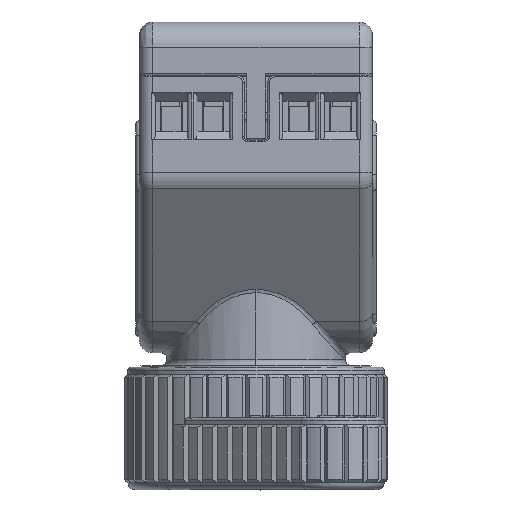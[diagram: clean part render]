
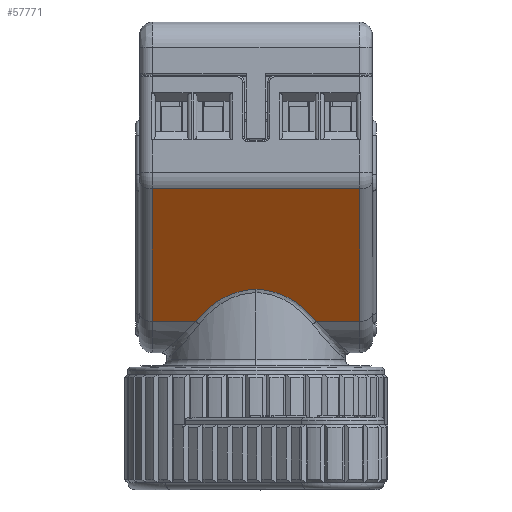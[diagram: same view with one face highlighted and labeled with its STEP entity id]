
A CAD part, top view. The second image highlights one B-rep face of the part: STEP entity #57771.
In plain terms, the highlighted planar face has unit normal (0, -0.566, 0.824).
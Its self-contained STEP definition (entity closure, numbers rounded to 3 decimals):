
#241=DIRECTION('',(0.,0.824,0.566));
#242=VECTOR('',#241,22.325);
#243=CARTESIAN_POINT('',(-14.4,-34.164,9.502));
#244=LINE('',#243,#242);
#13940=DIRECTION('',(1.,0.,0.));
#13941=VECTOR('',#13940,5.974);
#13942=CARTESIAN_POINT('',(-14.4,-34.164,9.502));
#13943=LINE('',#13942,#13941);
#13944=DIRECTION('',(1.,0.,0.));
#13945=VECTOR('',#13944,28.8);
#13946=CARTESIAN_POINT('',(-14.4,-15.766,22.147));
#13947=LINE('',#13946,#13945);
#13952=DIRECTION('',(0.,-0.824,-0.566));
#13953=VECTOR('',#13952,22.325);
#13954=CARTESIAN_POINT('',(14.4,-15.766,22.147));
#13955=LINE('',#13954,#13953);
#14175=CARTESIAN_POINT('',(-8.426,-34.164,
9.502));
#14214=CARTESIAN_POINT('',(0.,-29.742,
12.541));
#14215=CARTESIAN_POINT('',(-0.213,-29.742,
12.541));
#14216=CARTESIAN_POINT('',(-0.642,-29.757,
12.53));
#14217=CARTESIAN_POINT('',(-1.298,-29.827,
12.482));
#14218=CARTESIAN_POINT('',(-1.964,-29.947,
12.4));
#14219=CARTESIAN_POINT('',(-2.64,-30.121,
12.28));
#14220=CARTESIAN_POINT('',(-3.324,-30.352,
12.122));
#14221=CARTESIAN_POINT('',(-4.019,-30.644,
11.921));
#14222=CARTESIAN_POINT('',(-4.729,-31.005,
11.673));
#14223=CARTESIAN_POINT('',(-5.453,-31.445,
11.371));
#14224=CARTESIAN_POINT('',(-6.187,-31.968,
11.011));
#14225=CARTESIAN_POINT('',(-6.93,-32.585,
10.587));
#14226=CARTESIAN_POINT('',(-7.679,-33.307,
10.09));
#14227=CARTESIAN_POINT('',(-8.178,-33.865,
9.707));
#14228=CARTESIAN_POINT('',(-8.426,-34.164,
9.502));
#14251=CARTESIAN_POINT('',(8.426,-34.164,
9.502));
#14252=CARTESIAN_POINT('',(8.178,-33.865,
9.707));
#14253=CARTESIAN_POINT('',(7.679,-33.307,
10.091));
#14254=CARTESIAN_POINT('',(6.93,-32.585,
10.587));
#14255=CARTESIAN_POINT('',(6.187,-31.968,
11.011));
#14256=CARTESIAN_POINT('',(5.452,-31.444,
11.371));
#14257=CARTESIAN_POINT('',(4.728,-31.005,
11.673));
#14258=CARTESIAN_POINT('',(4.018,-30.643,
11.921));
#14259=CARTESIAN_POINT('',(3.323,-30.351,
12.122));
#14260=CARTESIAN_POINT('',(2.639,-30.121,
12.28));
#14261=CARTESIAN_POINT('',(1.963,-29.947,
12.4));
#14262=CARTESIAN_POINT('',(1.297,-29.827,
12.482));
#14263=CARTESIAN_POINT('',(0.642,-29.757,
12.53));
#14264=CARTESIAN_POINT('',(0.213,-29.742,
12.541));
#14265=CARTESIAN_POINT('',(0.,-29.742,
12.541));
#14327=DIRECTION('',(1.,0.,0.));
#14328=VECTOR('',#14327,5.974);
#14329=CARTESIAN_POINT('',(8.426,-34.164,
9.502));
#14330=LINE('',#14329,#14328);
#31030=VERTEX_POINT('',#14175);
#31032=VERTEX_POINT('',#14214);
#31034=VERTEX_POINT('',#14251);
#31043=CARTESIAN_POINT('',(14.4,-15.766,22.147));
#31045=VERTEX_POINT('',#31043);
#31048=CARTESIAN_POINT('',(14.4,-34.164,9.502));
#31049=VERTEX_POINT('',#31048);
#31074=CARTESIAN_POINT('',(-14.4,-15.766,22.147));
#31076=VERTEX_POINT('',#31074);
#31080=CARTESIAN_POINT('',(-14.4,-34.164,9.502));
#31081=VERTEX_POINT('',#31080);
#57752=CARTESIAN_POINT('',(-16.2,-15.766,22.147));
#57753=DIRECTION('',(0.,-0.566,0.824));
#57754=DIRECTION('',(0.,-0.824,-0.566));
#57755=AXIS2_PLACEMENT_3D('',#57752,#57753,#57754);
#57756=PLANE('',#57755);
#57758=ORIENTED_EDGE('',*,*,#57757,.T.);
#57760=ORIENTED_EDGE('',*,*,#57759,.F.);
#57762=ORIENTED_EDGE('',*,*,#57761,.T.);
#57764=ORIENTED_EDGE('',*,*,#57763,.T.);
#57765=ORIENTED_EDGE('',*,*,#57744,.F.);
#57766=ORIENTED_EDGE('',*,*,#39057,.T.);
#57768=ORIENTED_EDGE('',*,*,#57767,.T.);
#57769=EDGE_LOOP('',(#57758,#57760,#57762,#57764,#57765,#57766,#57768));
#57770=FACE_OUTER_BOUND('',#57769,.F.);
#57771=ADVANCED_FACE('',(#57770),#57756,.T.);
#14229=B_SPLINE_CURVE_WITH_KNOTS('',3,(#14214,#14215,#14216,#14217,#14218,
#14219,#14220,#14221,#14222,#14223,#14224,#14225,#14226,#14227,#14228),
.UNSPECIFIED.,.F.,.F.,(4,1,1,1,1,1,1,1,1,1,1,1,4),(0.,0.083,
0.167,0.25,0.333,0.417,0.5,
0.583,0.667,0.75,0.833,0.917,
1.),.UNSPECIFIED.);
#14266=B_SPLINE_CURVE_WITH_KNOTS('',3,(#14251,#14252,#14253,#14254,#14255,
#14256,#14257,#14258,#14259,#14260,#14261,#14262,#14263,#14264,#14265),
.UNSPECIFIED.,.F.,.F.,(4,1,1,1,1,1,1,1,1,1,1,1,4),(0.,0.083,
0.167,0.25,0.333,0.417,0.5,
0.583,0.667,0.75,0.833,0.917,
1.),.UNSPECIFIED.);
#39057=EDGE_CURVE('',#31081,#31076,#244,.T.);
#57744=EDGE_CURVE('',#31081,#31030,#13943,.T.);
#57757=EDGE_CURVE('',#31045,#31049,#13955,.T.);
#57759=EDGE_CURVE('',#31034,#31049,#14330,.T.);
#57761=EDGE_CURVE('',#31034,#31032,#14266,.T.);
#57763=EDGE_CURVE('',#31032,#31030,#14229,.T.);
#57767=EDGE_CURVE('',#31076,#31045,#13947,.T.);
